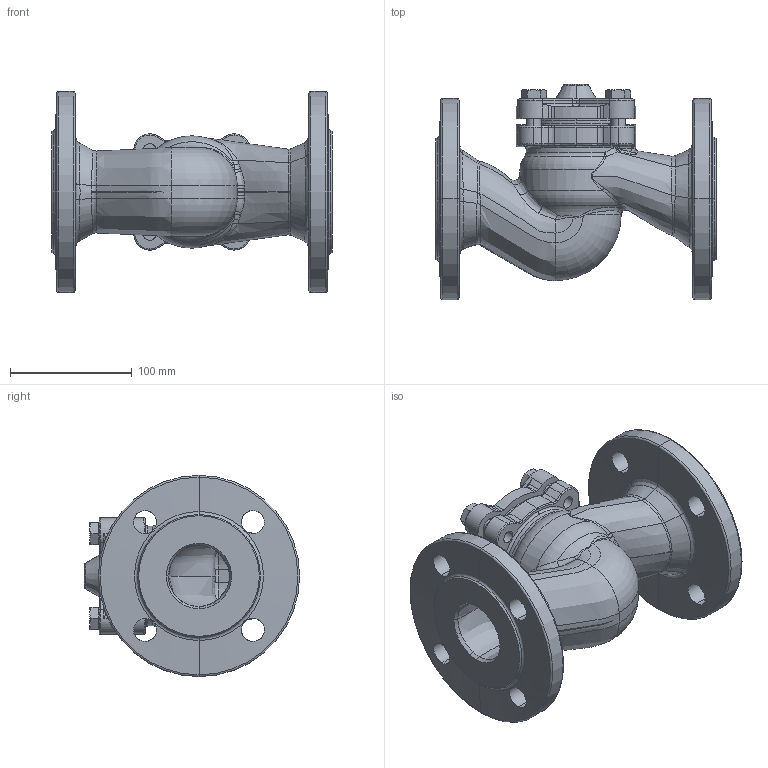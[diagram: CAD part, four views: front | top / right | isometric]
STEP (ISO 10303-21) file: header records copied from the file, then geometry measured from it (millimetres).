
FILE_DESCRIPTION (( 'STEP AP214' ), '1' );
FILE_NAME ('TCV_DN50 PN16.STEP', '2024-08-15T11:58:50', ( '' ), ( '' ), 'SwSTEP 2.0', 'SolidWorks 2023', '' );
FILE_SCHEMA (( 'AUTOMOTIVE_DESIGN' ));
Length unit declared in the file: millimetre
Products named in the file (1): TCV_DN50 PN16
Bounding box: 230 x 176.5 x 165 mm (x, y, z)
Volume: 1276031.3 mm3; surface area: 244685.9 mm2
Topology: 6 solids, 6 shells, 663 faces, 1604 edges, 946 vertices
Faces by surface type: bspline 264, cylinder 161, plane 110, torus 67, cone 57, sphere 4
Entity records: 111269 total; most frequent: CARTESIAN_POINT 98233, ORIENTED_EDGE 3172, DIRECTION 1889, EDGE_CURVE 1586, VERTEX_POINT 946, B_SPLINE_CURVE_WITH_KNOTS 803, AXIS2_PLACEMENT_3D 768, EDGE_LOOP 710
